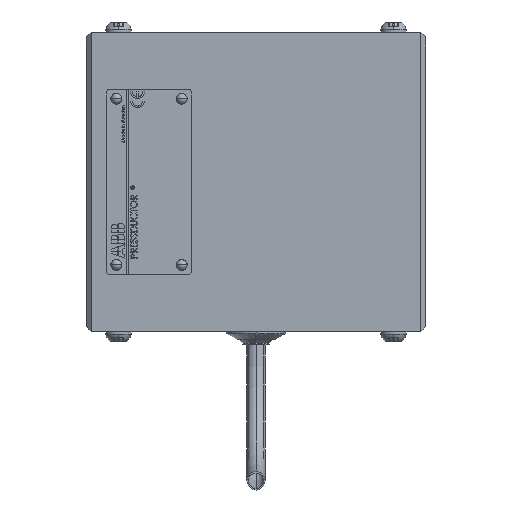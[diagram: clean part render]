
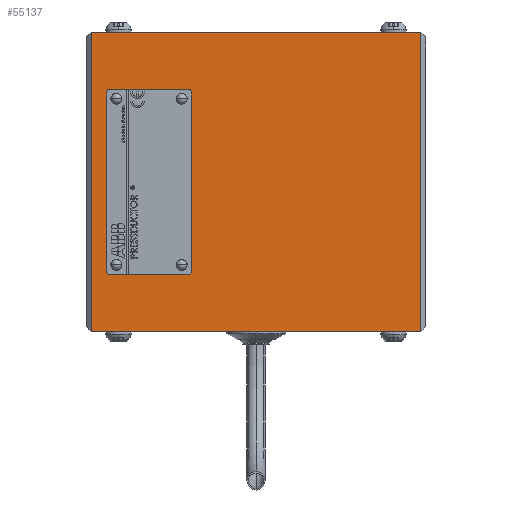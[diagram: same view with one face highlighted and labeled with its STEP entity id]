
A CAD part, left-side view. The second image highlights one B-rep face of the part: STEP entity #55137.
In plain terms, the highlighted planar face has unit normal (-1, 0, 0).
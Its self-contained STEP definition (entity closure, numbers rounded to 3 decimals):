
#1595 = DIRECTION ( 'NONE',  ( 1., 0., 0. ) ) ;
#1697 = EDGE_CURVE ( 'NONE', #27959, #58236, #36500, .T. ) ;
#1747 = VECTOR ( 'NONE', #45840, 1000. ) ;
#4038 = VERTEX_POINT ( 'NONE', #41117 ) ;
#4432 = CIRCLE ( 'NONE', #75483, 1. ) ;
#5139 = VERTEX_POINT ( 'NONE', #67946 ) ;
#5559 = ORIENTED_EDGE ( 'NONE', *, *, #35500, .F. ) ;
#5778 = ORIENTED_EDGE ( 'NONE', *, *, #21522, .T. ) ;
#6096 = VECTOR ( 'NONE', #26364, 1000. ) ;
#6479 = ORIENTED_EDGE ( 'NONE', *, *, #9653, .F. ) ;
#6996 = VECTOR ( 'NONE', #36434, 1000. ) ;
#8469 = CARTESIAN_POINT ( 'NONE',  ( -225., 24.8, 34. ) ) ;
#8973 = LINE ( 'NONE', #38275, #22849 ) ;
#9385 = EDGE_LOOP ( 'NONE', ( #44386, #51648, #5559, #42317 ) ) ;
#9653 = EDGE_CURVE ( 'NONE', #27959, #16902, #69029, .T. ) ;
#10689 = LINE ( 'NONE', #54017, #6996 ) ;
#11148 = DIRECTION ( 'NONE',  ( 1., 0., 0. ) ) ;
#12714 = LINE ( 'NONE', #39625, #26601 ) ;
#14147 = CARTESIAN_POINT ( 'NONE',  ( -225., 23.8, -33. ) ) ;
#14839 = AXIS2_PLACEMENT_3D ( 'NONE', #46583, #11148, #52541 ) ;
#16028 = CARTESIAN_POINT ( 'NONE',  ( -225., 53.8, 33. ) ) ;
#16058 = DIRECTION ( 'NONE',  ( 0., -1., 0. ) ) ;
#16844 = CARTESIAN_POINT ( 'NONE',  ( -225., 23.8, 33. ) ) ;
#16902 = VERTEX_POINT ( 'NONE', #53604 ) ;
#17528 = LINE ( 'NONE', #39899, #1747 ) ;
#17836 = CARTESIAN_POINT ( 'NONE',  ( -225., -60.5, 55. ) ) ;
#19319 = CARTESIAN_POINT ( 'NONE',  ( -225., 24.8, 33. ) ) ;
#20313 = VERTEX_POINT ( 'NONE', #48635 ) ;
#20691 = LINE ( 'NONE', #61822, #48466 ) ;
#21522 = EDGE_CURVE ( 'NONE', #52334, #16902, #73377, .T. ) ;
#21964 = DIRECTION ( 'NONE',  ( 0., -1., 0. ) ) ;
#22649 = EDGE_LOOP ( 'NONE', ( #72705, #62722, #34107, #5778, #6479, #26788, #69981, #62661 ) ) ;
#22849 = VECTOR ( 'NONE', #56110, 1000. ) ;
#22862 = VERTEX_POINT ( 'NONE', #58736 ) ;
#24336 = LINE ( 'NONE', #67396, #67815 ) ;
#25243 = DIRECTION ( 'NONE',  ( 0., -1., 0. ) ) ;
#25452 = VECTOR ( 'NONE', #25665, 1000. ) ;
#25665 = DIRECTION ( 'NONE',  ( 0., 0., -1. ) ) ;
#26364 = DIRECTION ( 'NONE',  ( 0., -1., 0. ) ) ;
#26601 = VECTOR ( 'NONE', #16058, 1000. ) ;
#26788 = ORIENTED_EDGE ( 'NONE', *, *, #1697, .T. ) ;
#27226 = VERTEX_POINT ( 'NONE', #17836 ) ;
#27959 = VERTEX_POINT ( 'NONE', #32959 ) ;
#29216 = CARTESIAN_POINT ( 'NONE',  ( -225., 24.8, -33. ) ) ;
#29483 = EDGE_CURVE ( 'NONE', #52334, #61451, #10689, .T. ) ;
#32418 = AXIS2_PLACEMENT_3D ( 'NONE', #29216, #70605, #35185 ) ;
#32959 = CARTESIAN_POINT ( 'NONE',  ( -225., 53.8, -34. ) ) ;
#33455 = EDGE_CURVE ( 'NONE', #59071, #61451, #4432, .T. ) ;
#33532 = VERTEX_POINT ( 'NONE', #67912 ) ;
#34064 = AXIS2_PLACEMENT_3D ( 'NONE', #16028, #57419, #21964 ) ;
#34107 = ORIENTED_EDGE ( 'NONE', *, *, #29483, .F. ) ;
#34483 = EDGE_CURVE ( 'NONE', #22862, #5139, #8973, .T. ) ;
#34703 = CIRCLE ( 'NONE', #34064, 1. ) ;
#35185 = DIRECTION ( 'NONE',  ( 0., -1., 0. ) ) ;
#35500 = EDGE_CURVE ( 'NONE', #33532, #27226, #12714, .T. ) ;
#36434 = DIRECTION ( 'NONE',  ( 0., 0., 1. ) ) ;
#36500 = CIRCLE ( 'NONE', #14839, 1. ) ;
#37048 = PLANE ( 'NONE',  #63114 ) ;
#37719 = FACE_BOUND ( 'NONE', #22649, .T. ) ;
#37895 = CARTESIAN_POINT ( 'NONE',  ( -225., 54.8, -33. ) ) ;
#38275 = CARTESIAN_POINT ( 'NONE',  ( -225., 60.5, -55. ) ) ;
#38315 = DIRECTION ( 'NONE',  ( 0., 0., -1. ) ) ;
#39625 = CARTESIAN_POINT ( 'NONE',  ( -225., 60.5, 55. ) ) ;
#39899 = CARTESIAN_POINT ( 'NONE',  ( -225., 54.8, 34. ) ) ;
#41117 = CARTESIAN_POINT ( 'NONE',  ( -225., 53.8, 34. ) ) ;
#42317 = ORIENTED_EDGE ( 'NONE', *, *, #57241, .T. ) ;
#43028 = DIRECTION ( 'NONE',  ( 0., 0., -1. ) ) ;
#43902 = DIRECTION ( 'NONE',  ( 0., 0., -1. ) ) ;
#44386 = ORIENTED_EDGE ( 'NONE', *, *, #34483, .T. ) ;
#45840 = DIRECTION ( 'NONE',  ( 0., 1., 0. ) ) ;
#46583 = CARTESIAN_POINT ( 'NONE',  ( -225., 53.8, -33. ) ) ;
#48466 = VECTOR ( 'NONE', #38315, 1000. ) ;
#48635 = CARTESIAN_POINT ( 'NONE',  ( -225., 54.8, 33. ) ) ;
#50771 = EDGE_CURVE ( 'NONE', #27226, #5139, #24336, .T. ) ;
#51597 = FACE_OUTER_BOUND ( 'NONE', #9385, .T. ) ;
#51648 = ORIENTED_EDGE ( 'NONE', *, *, #50771, .F. ) ;
#52334 = VERTEX_POINT ( 'NONE', #14147 ) ;
#52541 = DIRECTION ( 'NONE',  ( 0., -1., 0. ) ) ;
#53300 = EDGE_CURVE ( 'NONE', #59071, #4038, #17528, .T. ) ;
#53604 = CARTESIAN_POINT ( 'NONE',  ( -225., 24.8, -34. ) ) ;
#54017 = CARTESIAN_POINT ( 'NONE',  ( -225., 23.8, -34. ) ) ;
#54643 = CARTESIAN_POINT ( 'NONE',  ( -225., 60.5, 55. ) ) ;
#55137 = ADVANCED_FACE ( 'NONE', ( #37719, #51597 ), #37048, .F. ) ;
#55844 = CARTESIAN_POINT ( 'NONE',  ( -225., 54.8, -34. ) ) ;
#56110 = DIRECTION ( 'NONE',  ( 0., -1., 0. ) ) ;
#57241 = EDGE_CURVE ( 'NONE', #33532, #22862, #68953, .T. ) ;
#57419 = DIRECTION ( 'NONE',  ( 1., 0., 0. ) ) ;
#58236 = VERTEX_POINT ( 'NONE', #37895 ) ;
#58722 = EDGE_CURVE ( 'NONE', #20313, #4038, #34703, .T. ) ;
#58736 = CARTESIAN_POINT ( 'NONE',  ( -225., 60.5, -55. ) ) ;
#59071 = VERTEX_POINT ( 'NONE', #8469 ) ;
#60688 = DIRECTION ( 'NONE',  ( 1., 0., 0. ) ) ;
#61081 = CARTESIAN_POINT ( 'NONE',  ( -225., 60.5, 55. ) ) ;
#61451 = VERTEX_POINT ( 'NONE', #16844 ) ;
#61822 = CARTESIAN_POINT ( 'NONE',  ( -225., 54.8, -34. ) ) ;
#62661 = ORIENTED_EDGE ( 'NONE', *, *, #58722, .T. ) ;
#62722 = ORIENTED_EDGE ( 'NONE', *, *, #33455, .T. ) ;
#63114 = AXIS2_PLACEMENT_3D ( 'NONE', #54643, #1595, #43028 ) ;
#67396 = CARTESIAN_POINT ( 'NONE',  ( -225., -60.5, 55. ) ) ;
#67815 = VECTOR ( 'NONE', #43902, 1000. ) ;
#67912 = CARTESIAN_POINT ( 'NONE',  ( -225., 60.5, 55. ) ) ;
#67946 = CARTESIAN_POINT ( 'NONE',  ( -225., -60.5, -55. ) ) ;
#68953 = LINE ( 'NONE', #61081, #25452 ) ;
#69029 = LINE ( 'NONE', #55844, #6096 ) ;
#69981 = ORIENTED_EDGE ( 'NONE', *, *, #70612, .F. ) ;
#70605 = DIRECTION ( 'NONE',  ( 1., 0., 0. ) ) ;
#70612 = EDGE_CURVE ( 'NONE', #20313, #58236, #20691, .T. ) ;
#72705 = ORIENTED_EDGE ( 'NONE', *, *, #53300, .F. ) ;
#73377 = CIRCLE ( 'NONE', #32418, 1. ) ;
#75483 = AXIS2_PLACEMENT_3D ( 'NONE', #19319, #60688, #25243 ) ;
